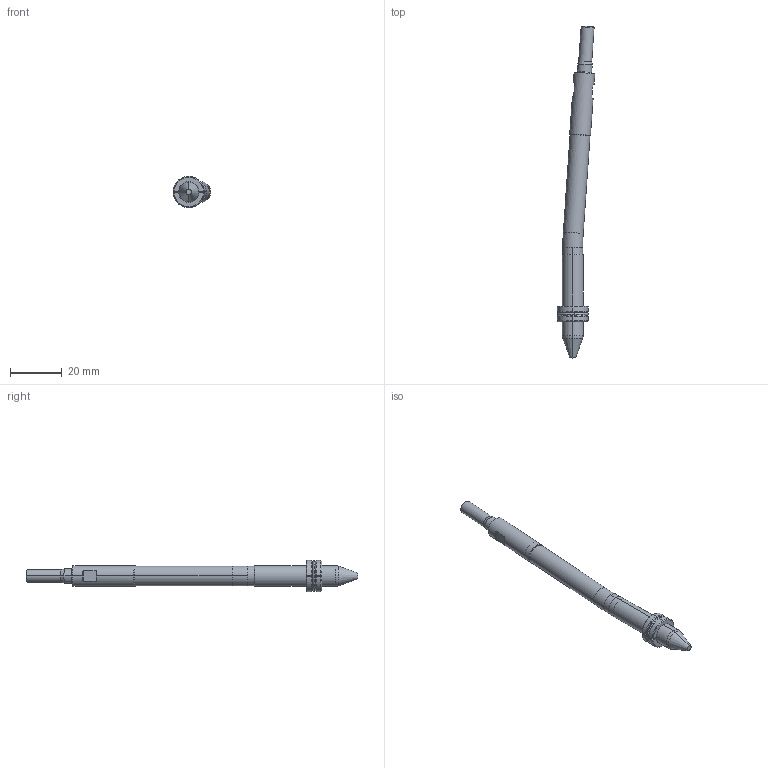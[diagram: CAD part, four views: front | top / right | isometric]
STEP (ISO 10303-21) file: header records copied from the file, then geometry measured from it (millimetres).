
FILE_DESCRIPTION (( 'STEP AP214' ), '1' );
FILE_NAME ('WP080030-EJE 4°.STEP', '2021-03-19T15:18:46', ( '' ), ( '' ), 'SwSTEP 2.0', 'SolidWorks 2019', '' );
FILE_SCHEMA (( 'AUTOMOTIVE_DESIGN' ));
Length unit declared in the file: millimetre
Products named in the file (6): WP080030-EJE 4°; Web-WP08-6; Web-WP08-F_WP08-F-ON 4ø; Web-WP08-2; Web-WP08-7; Web-WP08-1
Assembly tree (5 placements, depth 2):
  WP080030-EJE 4°
    Web-WP08-1
    Web-WP08-F_WP08-F-ON 4ø
    Web-WP08-2
    Web-WP08-6
    Web-WP08-7
Bounding box: 14.48 x 127.96 x 12 mm (x, y, z)
Volume: 5841.4 mm3; surface area: 4095.4 mm2
Topology: 6 solids, 6 shells, 121 faces, 280 edges, 174 vertices
Faces by surface type: cylinder 36, plane 29, cone 28, torus 28
Entity records: 3977 total; most frequent: CARTESIAN_POINT 767, DIRECTION 652, ORIENTED_EDGE 560, AXIS2_PLACEMENT_3D 283, EDGE_CURVE 280, VERTEX_POINT 174, CIRCLE 154, EDGE_LOOP 126
